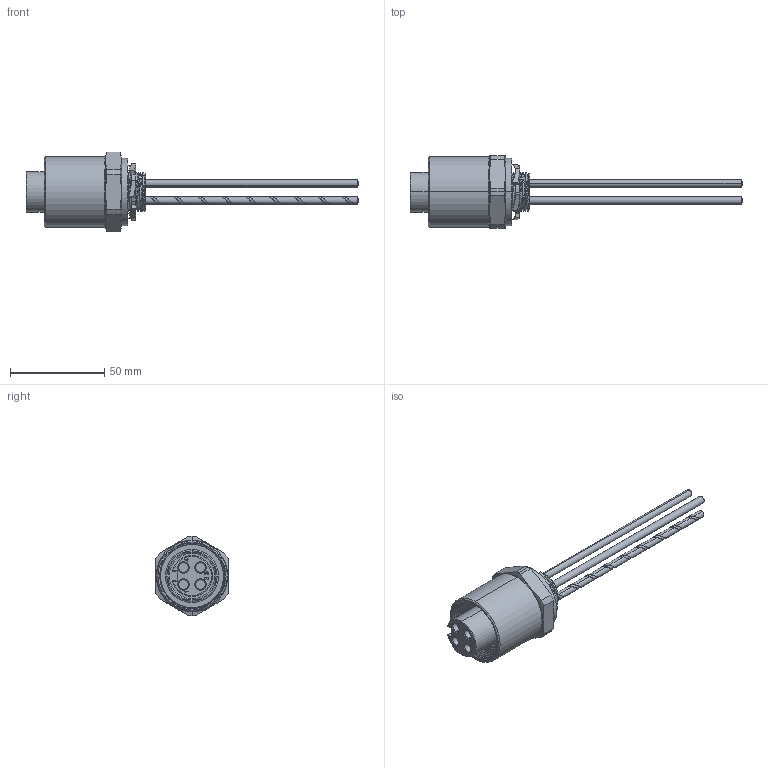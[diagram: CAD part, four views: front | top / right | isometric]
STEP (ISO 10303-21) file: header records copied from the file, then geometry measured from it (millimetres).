
FILE_DESCRIPTION (( 'STEP AP214' ), '1' );
FILE_NAME ('PMIN-42FR-ZZ.STEP', '2020-02-06T11:52:38', ( '' ), ( '' ), 'SwSTEP 2.0', 'SolidWorks 2018', '' );
FILE_SCHEMA (( 'AUTOMOTIVE_DESIGN' ));
Length unit declared in the file: millimetre
Products named in the file (1): PMIN-42FR-ZZ
Bounding box: 175.68 x 38.1 x 42.16 mm (x, y, z)
Volume: 54872.4 mm3; surface area: 19562.4 mm2
Topology: 1 solids, 1 shells, 286 faces, 711 edges, 454 vertices
Faces by surface type: cylinder 99, plane 95, bspline 47, cone 30, torus 13, sphere 2
Entity records: 21111 total; most frequent: CARTESIAN_POINT 11743, ORIENTED_EDGE 1414, DIRECTION 1133, EDGE_CURVE 707, VERTEX_POINT 452, AXIS2_PLACEMENT_3D 430, EDGE_LOOP 317, ADVANCED_FACE 286
